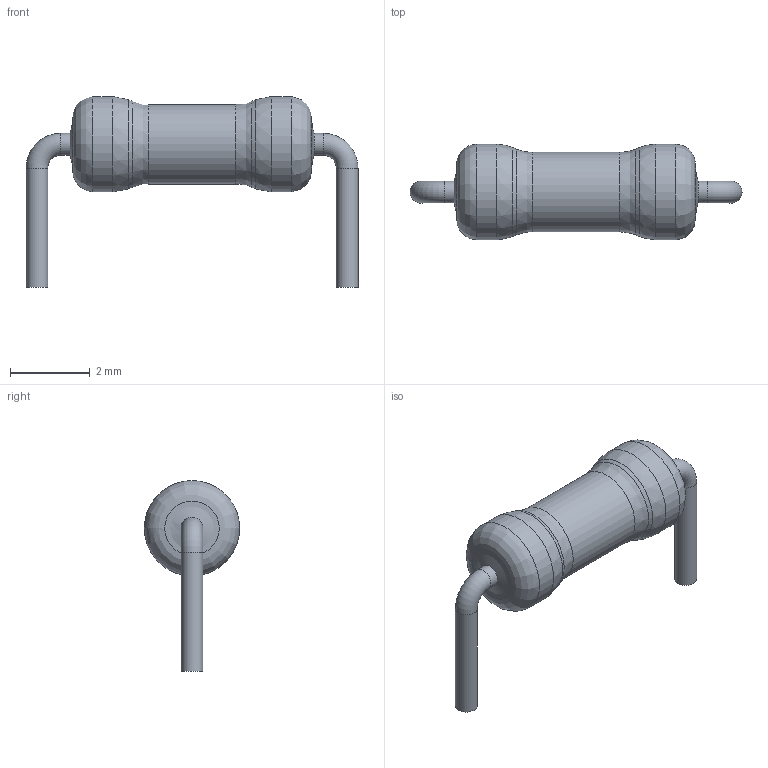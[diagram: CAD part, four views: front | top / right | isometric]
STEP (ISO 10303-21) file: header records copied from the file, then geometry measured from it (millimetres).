
FILE_DESCRIPTION(('FreeCAD Model'),'2;1');
FILE_NAME('/home/kammutierspule/Gliderbits/kicad3Dmodels/generated/Resistors/Film_Carbon/RESAD780W55L630D240B.step','2017-02-02T18:22:52',('Author'),(''), 'Open CASCADE STEP processor 6.8','FreeCAD','Unknown');
FILE_SCHEMA(('AUTOMOTIVE_DESIGN_CC2 { 1 2 10303 214 -1 1 5 4 }'));
Length unit declared in the file: millimetre
Products named in the file (2): ASSEMBLY; Resistor
Assembly tree (1 placements, depth 2):
  ASSEMBLY
    Resistor
Bounding box: 8.35 x 2.4 x 4.8 mm (x, y, z)
Volume: 24.2 mm3; surface area: 61.8 mm2
Topology: 1 solids, 1 shells, 21 faces, 41 edges, 22 vertices
Faces by surface type: revolution 8, cylinder 7, plane 2, torus 2, cone 2
Full cylindrical faces by diameter (mm): 0.55 x4, 2 x1, 2.4 x2
Entity records: 1856 total; most frequent: CARTESIAN_POINT 804, DIRECTION 181, ORIENTED_EDGE 82, PCURVE 82, DEFINITIONAL_REPRESENTATION 82, LINE 71, VECTOR 71, AXIS2_PLACEMENT_3D 51
